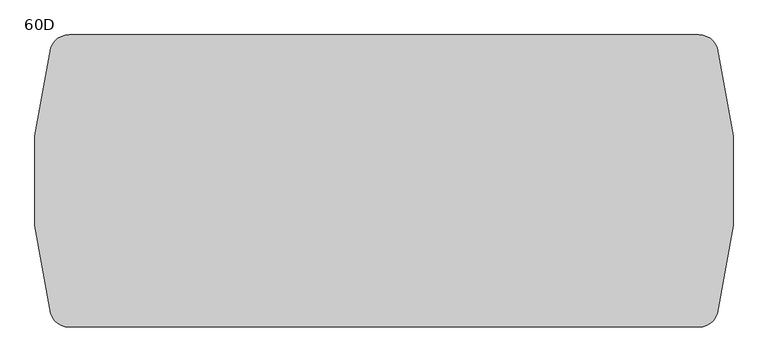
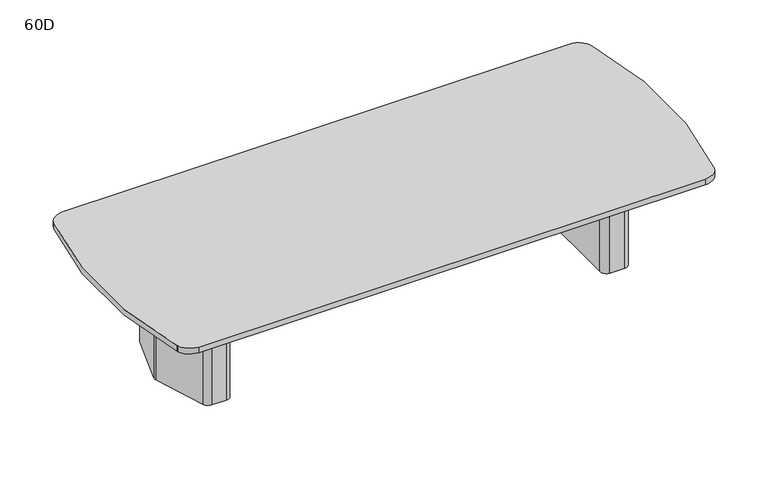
"""IFC4 building model written with IfcOpenShell, lengths in millimetres: furniture geometry, Coalesse_AM_Table_Conference_ETable2_SoftRadiused_12ft_TwoBase : 60D."""

from ifc_helpers import new_model, si_unit, point, frame, frame_2d, origin, origin_with_axes, place, context, project, spatial, polyline, circle_curve, trimmed, segment, composite_curve, outline, extrude, source, transform, mapped, element, save


def furniture_60d_7b62f4e6(model_context):
    return source(origin(), model_context, "Body", "SweptSolid", [
        extrude(outline(composite_curve([segment(polyline([(1427.1625, 101.7236478), (1427.1625, -97.2761514)]), True, "CONTINUOUS"), segment(trimmed(circle_curve(frame_2d((1389.0625, -97.2761514)), 38.1), [point((1427.1625, -97.2761514))], [point((1425.3991129, -108.7330515))], False, "CARTESIAN"), True, "CONTINUOUS"), segment(polyline([(1425.3991129, -108.7330515), (1366.9745591, -294.0319001)]), True, "CONTINUOUS"), segment(trimmed(circle_curve(frame_2d((1330.6379462, -282.575)), 38.1), [point((1366.9745591, -294.0319001))], [point((1330.6379462, -320.675))], False, "CARTESIAN"), True, "CONTINUOUS"), segment(polyline([(1330.6379462, -320.675), (1263.65, -320.675)]), True, "CONTINUOUS"), segment(trimmed(circle_curve(frame_2d((1263.65, -282.575)), 38.1), [point((1263.65, -320.675))], [point((1225.55, -282.575))], False, "CARTESIAN"), True, "CONTINUOUS"), segment(polyline([(1225.55, -282.575), (1225.55, 282.575)]), True, "CONTINUOUS"), segment(trimmed(circle_curve(frame_2d((1263.65, 282.575)), 38.1), [point((1225.55, 282.575))], [point((1263.65, 320.675))], False, "CARTESIAN"), True, "CONTINUOUS"), segment(polyline([(1263.65, 320.675), (1334.3873998, 320.675)]), True, "CONTINUOUS"), segment(trimmed(circle_curve(frame_2d((1334.3873998, 282.575)), 38.1), [point((1334.3873998, 320.675))], [point((1370.8572049, 293.6005756))], False, "CARTESIAN"), True, "CONTINUOUS"), segment(polyline([(1370.8572049, 293.6005756), (1425.5323051, 112.7492234)]), True, "CONTINUOUS"), segment(trimmed(circle_curve(frame_2d((1389.0625, 101.7236478)), 38.1), [point((1425.5323051, 112.7492234))], [point((1427.1625, 101.7236478))], False, "CARTESIAN"), True, "CONTINUOUS")], self_intersect=False)), origin_with_axes(), (0.0, 0.0, 1.0), 3.175),
        extrude(outline(composite_curve([segment(polyline([(1247.775, 381.0), (1335.9221663, 381.0)]), True, "CONTINUOUS"), segment(trimmed(circle_curve(frame_2d((1335.9221663, 339.725)), 41.275), [point((1335.9221663, 381.0))], [point((1375.2868303, 352.1366418))], False, "CARTESIAN"), True, "CONTINUOUS"), segment(polyline([(1375.2868303, 352.1366418), (1482.4018053, 12.4116418)]), True, "CONTINUOUS"), segment(trimmed(circle_curve(frame_2d((1443.0371413, 0.0)), 41.275), [point((1482.4018053, 12.4116418))], [point((1482.4018053, -12.4116418))], False, "CARTESIAN"), True, "CONTINUOUS"), segment(polyline([(1482.4018053, -12.4116418), (1375.2868303, -352.1366418)]), True, "CONTINUOUS"), segment(trimmed(circle_curve(frame_2d((1335.9221663, -339.725)), 41.275), [point((1375.2868303, -352.1366418))], [point((1335.9221663, -381.0))], False, "CARTESIAN"), True, "CONTINUOUS"), segment(polyline([(1335.9221663, -381.0), (1241.425, -381.0)]), True, "CONTINUOUS"), segment(trimmed(circle_curve(frame_2d((1241.425, -339.725)), 41.275), [point((1241.425, -381.0))], [point((1200.15, -339.725))], False, "CARTESIAN"), True, "CONTINUOUS"), segment(polyline([(1200.15, -339.725), (1200.15, 333.375)]), True, "CONTINUOUS"), segment(trimmed(circle_curve(frame_2d((1247.775, 333.375)), 47.625), [point((1200.15, 333.375))], [point((1247.775, 381.0))], False, "CARTESIAN"), True, "CONTINUOUS")], self_intersect=False), holes=[composite_curve([segment(trimmed(circle_curve(frame_2d((1263.65, -282.575)), 25.4), [point((1238.25, -282.575))], [point((1263.65, -307.975))], True, "CARTESIAN"), True, "CONTINUOUS"), segment(polyline([(1263.65, -307.975), (1330.6379462, -307.975)]), True, "CONTINUOUS"), segment(trimmed(circle_curve(frame_2d((1330.6379462, -282.575)), 25.4), [point((1330.6379462, -307.975))], [point((1354.8623548, -290.2129334))], True, "CARTESIAN"), True, "CONTINUOUS"), segment(polyline([(1354.8623548, -290.2129334), (1413.2869086, -104.9140848)]), True, "CONTINUOUS"), segment(trimmed(circle_curve(frame_2d((1389.0625, -97.2761514)), 25.4), [point((1413.2869086, -104.9140848))], [point((1414.4625, -97.2761514))], True, "CARTESIAN"), True, "CONTINUOUS"), segment(polyline([(1414.4625, -97.2761514), (1414.4625, 101.7236478)]), True, "CONTINUOUS"), segment(trimmed(circle_curve(frame_2d((1389.0625, 101.7236478)), 25.4), [point((1414.4625, 101.7236478))], [point((1413.3757034, 109.0740316))], True, "CARTESIAN"), True, "CONTINUOUS"), segment(polyline([(1413.3757034, 109.0740316), (1358.7006032, 289.9253837)]), True, "CONTINUOUS"), segment(trimmed(circle_curve(frame_2d((1334.3873998, 282.575)), 25.4), [point((1358.7006032, 289.9253837))], [point((1334.3873998, 307.975))], True, "CARTESIAN"), True, "CONTINUOUS"), segment(polyline([(1334.3873998, 307.975), (1263.65, 307.975)]), True, "CONTINUOUS"), segment(trimmed(circle_curve(frame_2d((1263.65, 282.575)), 25.4), [point((1263.65, 307.975))], [point((1238.25, 282.575))], True, "CARTESIAN"), True, "CONTINUOUS"), segment(polyline([(1238.25, 282.575), (1238.25, -282.575)]), True, "CONTINUOUS")], self_intersect=False)]), frame((0.0, 0.0, 3.175), z_axis=(0.0, 0.0, 1.0), x_axis=(1.0, 0.0, 0.0)), (0.0, 0.0, 1.0), 695.325),
        extrude(outline(composite_curve([segment(trimmed(circle_curve(frame_2d((-1389.0625, 101.7236478)), 38.1), [point((-1427.1625, 101.7236478))], [point((-1425.5323051, 112.7492234))], False, "CARTESIAN"), True, "CONTINUOUS"), segment(polyline([(-1425.5323051, 112.7492234), (-1370.8572049, 293.6005756)]), True, "CONTINUOUS"), segment(trimmed(circle_curve(frame_2d((-1334.3873998, 282.575)), 38.1), [point((-1370.8572049, 293.6005756))], [point((-1334.3873998, 320.675))], False, "CARTESIAN"), True, "CONTINUOUS"), segment(polyline([(-1334.3873998, 320.675), (-1263.65, 320.675)]), True, "CONTINUOUS"), segment(trimmed(circle_curve(frame_2d((-1263.65, 282.575)), 38.1), [point((-1263.65, 320.675))], [point((-1225.55, 282.575))], False, "CARTESIAN"), True, "CONTINUOUS"), segment(polyline([(-1225.55, 282.575), (-1225.55, -282.575)]), True, "CONTINUOUS"), segment(trimmed(circle_curve(frame_2d((-1263.65, -282.575)), 38.1), [point((-1225.55, -282.575))], [point((-1263.65, -320.675))], False, "CARTESIAN"), True, "CONTINUOUS"), segment(polyline([(-1263.65, -320.675), (-1330.6379462, -320.675)]), True, "CONTINUOUS"), segment(trimmed(circle_curve(frame_2d((-1330.6379462, -282.575)), 38.1), [point((-1330.6379462, -320.675))], [point((-1366.9745591, -294.0319001))], False, "CARTESIAN"), True, "CONTINUOUS"), segment(polyline([(-1366.9745591, -294.0319001), (-1425.3991129, -108.7330515)]), True, "CONTINUOUS"), segment(trimmed(circle_curve(frame_2d((-1389.0625, -97.2761514)), 38.1), [point((-1425.3991129, -108.7330515))], [point((-1427.1625, -97.2761514))], False, "CARTESIAN"), True, "CONTINUOUS"), segment(polyline([(-1427.1625, -97.2761514), (-1427.1625, 101.7236478)]), True, "CONTINUOUS")], self_intersect=False)), origin_with_axes(), (0.0, 0.0, 1.0), 3.175),
        extrude(outline(composite_curve([segment(trimmed(circle_curve(frame_2d((-1247.775, 333.375)), 47.625), [point((-1247.775, 381.0))], [point((-1200.15, 333.375))], False, "CARTESIAN"), True, "CONTINUOUS"), segment(polyline([(-1200.15, 333.375), (-1200.15, -339.725)]), True, "CONTINUOUS"), segment(trimmed(circle_curve(frame_2d((-1241.425, -339.725)), 41.275), [point((-1200.15, -339.725))], [point((-1241.425, -381.0))], False, "CARTESIAN"), True, "CONTINUOUS"), segment(polyline([(-1241.425, -381.0), (-1335.9221663, -381.0)]), True, "CONTINUOUS"), segment(trimmed(circle_curve(frame_2d((-1335.9221663, -339.725)), 41.275), [point((-1335.9221663, -381.0))], [point((-1375.2868303, -352.1366418))], False, "CARTESIAN"), True, "CONTINUOUS"), segment(polyline([(-1375.2868303, -352.1366418), (-1482.4018053, -12.4116418)]), True, "CONTINUOUS"), segment(trimmed(circle_curve(frame_2d((-1443.0371413, 0.0)), 41.275), [point((-1482.4018053, -12.4116418))], [point((-1482.4018053, 12.4116418))], False, "CARTESIAN"), True, "CONTINUOUS"), segment(polyline([(-1482.4018053, 12.4116418), (-1375.2868303, 352.1366418)]), True, "CONTINUOUS"), segment(trimmed(circle_curve(frame_2d((-1335.9221663, 339.725)), 41.275), [point((-1375.2868303, 352.1366418))], [point((-1335.9221663, 381.0))], False, "CARTESIAN"), True, "CONTINUOUS"), segment(polyline([(-1335.9221663, 381.0), (-1247.775, 381.0)]), True, "CONTINUOUS")], self_intersect=False), holes=[composite_curve([segment(polyline([(-1238.25, -282.575), (-1238.25, 282.575)]), True, "CONTINUOUS"), segment(trimmed(circle_curve(frame_2d((-1263.65, 282.575)), 25.4), [point((-1238.25, 282.575))], [point((-1263.65, 307.975))], True, "CARTESIAN"), True, "CONTINUOUS"), segment(polyline([(-1263.65, 307.975), (-1334.3873998, 307.975)]), True, "CONTINUOUS"), segment(trimmed(circle_curve(frame_2d((-1334.3873998, 282.575)), 25.4), [point((-1334.3873998, 307.975))], [point((-1358.7006032, 289.9253837))], True, "CARTESIAN"), True, "CONTINUOUS"), segment(polyline([(-1358.7006032, 289.9253837), (-1413.3757034, 109.0740316)]), True, "CONTINUOUS"), segment(trimmed(circle_curve(frame_2d((-1389.0625, 101.7236478)), 25.4), [point((-1413.3757034, 109.0740316))], [point((-1414.4625, 101.7236478))], True, "CARTESIAN"), True, "CONTINUOUS"), segment(polyline([(-1414.4625, 101.7236478), (-1414.4625, -97.2761514)]), True, "CONTINUOUS"), segment(trimmed(circle_curve(frame_2d((-1389.0625, -97.2761514)), 25.4), [point((-1414.4625, -97.2761514))], [point((-1413.2869086, -104.9140848))], True, "CARTESIAN"), True, "CONTINUOUS"), segment(polyline([(-1413.2869086, -104.9140848), (-1354.8623548, -290.2129334)]), True, "CONTINUOUS"), segment(trimmed(circle_curve(frame_2d((-1330.6379462, -282.575)), 25.4), [point((-1354.8623548, -290.2129334))], [point((-1330.6379462, -307.975))], True, "CARTESIAN"), True, "CONTINUOUS"), segment(polyline([(-1330.6379462, -307.975), (-1263.65, -307.975)]), True, "CONTINUOUS"), segment(trimmed(circle_curve(frame_2d((-1263.65, -282.575)), 25.4), [point((-1263.65, -307.975))], [point((-1238.25, -282.575))], True, "CARTESIAN"), True, "CONTINUOUS")], self_intersect=False)]), frame((0.0, 0.0, 3.175), z_axis=(0.0, 0.0, 1.0), x_axis=(1.0, 0.0, 0.0)), (0.0, 0.0, 1.0), 695.325),
        extrude(outline(composite_curve([segment(trimmed(circle_curve(frame_2d((803.8533608, 5.18e-05)), 2632.6533608), [point((-1736.1539068, -692.2620365))], [point((-1736.1956256, 692.1090495))], False, "CARTESIAN"), True, "CONTINUOUS"), segment(polyline([(-1736.1956256, 692.1090495), (-1735.4453442, 694.2662966)]), True, "CONTINUOUS"), segment(trimmed(circle_curve(frame_2d((-1639.6558148, 660.4)), 101.6), [point((-1735.4453442, 694.2662966))], [point((-1639.6558148, 762.0))], False, "CARTESIAN"), True, "CONTINUOUS"), segment(polyline([(-1639.6558148, 762.0), (1639.6558148, 762.0)]), True, "CONTINUOUS"), segment(trimmed(circle_curve(frame_2d((1639.6558148, 660.4)), 101.6), [point((1639.6558148, 762.0))], [point((1735.4453444, 694.2662962))], False, "CARTESIAN"), True, "CONTINUOUS"), segment(polyline([(1735.4453444, 694.2662962), (1736.1956281, 692.1491304)]), True, "CONTINUOUS"), segment(trimmed(circle_curve(frame_2d((-804.1529947, 5.18e-05)), 2632.9529947), [point((1736.1956281, 692.1491304))], [point((1736.2015476, -692.1273003))], False, "CARTESIAN"), True, "CONTINUOUS"), segment(polyline([(1736.2015476, -692.1273003), (1735.4457113, -694.2652293)]), True, "CONTINUOUS"), segment(trimmed(circle_curve(frame_2d((1639.6557872, -660.3999756)), 101.6000244), [point((1735.4457113, -694.2652293))], [point((1639.6557872, -762.0))], False, "CARTESIAN"), True, "CONTINUOUS"), segment(polyline([(1639.6557872, -762.0), (-1639.6555469, -762.0)]), True, "CONTINUOUS"), segment(trimmed(circle_curve(frame_2d((-1639.6555469, -660.399927)), 101.600073), [point((-1639.6555469, -762.0))], [point((-1735.4425275, -694.273651))], False, "CARTESIAN"), True, "CONTINUOUS"), segment(polyline([(-1735.4425275, -694.273651), (-1736.1539068, -692.2620365)]), True, "CONTINUOUS")], self_intersect=False)), frame((0.0, 0.0, 698.5), z_axis=(0.0, 0.0, 1.0), x_axis=(1.0, 0.0, 0.0)), (0.0, 0.0, 1.0), 38.1),
        extrude(outline(polyline([(96.8375, 698.5), (103.1875, 698.5), (103.1875, 476.25), (-103.1875, 476.25), (-103.1875, 698.5), (-96.8375, 698.5), (-96.8375, 482.6), (96.8375, 482.6), (96.8375, 698.5)])), frame((-1200.15, 0.0, 0.0), z_axis=(1.0, 0.0, 0.0), x_axis=(0.0, 1.0, 0.0)), (0.0, 0.0, 1.0), 2400.3),
    ])


if __name__ == "__main__":
    model = new_model("IFC4")
    model_context = context("Model", 3, world=origin())
    ifc_project = project(units=[si_unit("LENGTHUNIT", "METRE", prefix="MILLI")], contexts=[model_context])
    site = spatial("IfcSite", under=ifc_project)
    building = spatial("IfcBuilding", under=site)
    placement = place(None, origin())
    furniture_60d_shape = furniture_60d_7b62f4e6(model_context)
    element("IfcFurniture", 1, ObjectType="Coalesse_AM_Table_Conference_ETable2_SoftRadiused_12ft_TwoBase : 60D", at=placement, inside=building, context=model_context, shape_type="MappedRepresentation", body=[
        mapped(furniture_60d_shape, transform((0.0, 0.0, 0.0), x_axis=(1.0, 0.0, 0.0), y_axis=(0.0, 1.0, 0.0), z_axis=(0.0, 0.0, 1.0))),
    ])
    save(model, "model.ifc")
